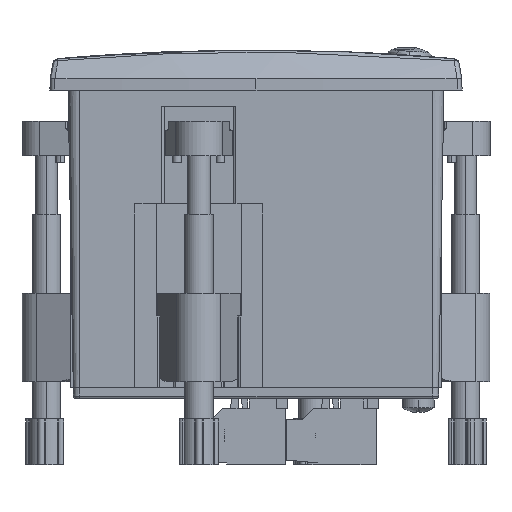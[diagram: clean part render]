
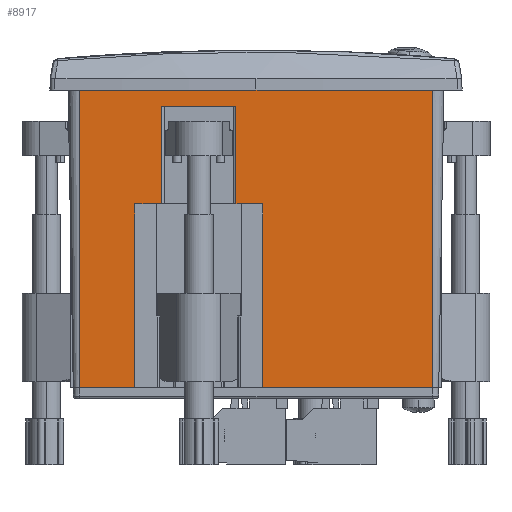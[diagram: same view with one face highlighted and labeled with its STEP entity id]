
A CAD part, left-side view. The second image highlights one B-rep face of the part: STEP entity #8917.
In plain terms, the highlighted planar face has unit normal (-1, 0, -0.018).
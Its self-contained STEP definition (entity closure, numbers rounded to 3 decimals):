
#2183 = DIRECTION ( 'NONE',  ( 0.017, 0., -1. ) ) ;
#2779 = VERTEX_POINT ( 'NONE', #33742 ) ;
#3119 = EDGE_CURVE ( 'NONE', #7847, #53150, #21857, .T. ) ;
#3890 = EDGE_CURVE ( 'NONE', #56179, #20033, #51132, .T. ) ;
#4158 = ORIENTED_EDGE ( 'NONE', *, *, #12183, .T. ) ;
#4218 = ORIENTED_EDGE ( 'NONE', *, *, #3890, .T. ) ;
#5060 = ORIENTED_EDGE ( 'NONE', *, *, #54609, .F. ) ;
#5543 = EDGE_CURVE ( 'NONE', #45986, #25909, #11629, .T. ) ;
#6535 = CARTESIAN_POINT ( 'NONE',  ( -66.967, -28.35, -52. ) ) ;
#6983 = VECTOR ( 'NONE', #46010, 1000. ) ;
#7322 = LINE ( 'NONE', #9114, #29315 ) ;
#7540 = ORIENTED_EDGE ( 'NONE', *, *, #24735, .F. ) ;
#7847 = VERTEX_POINT ( 'NONE', #19442 ) ;
#8024 = CARTESIAN_POINT ( 'NONE',  ( -67.527, 17.4, -19.918 ) ) ;
#8917 = ADVANCED_FACE ( 'NONE', ( #28220 ), #26701, .T. ) ;
#9114 = CARTESIAN_POINT ( 'NONE',  ( -67.527, 2.6, -19.918 ) ) ;
#10149 = VECTOR ( 'NONE', #27508, 1000. ) ;
#11028 = LINE ( 'NONE', #21813, #34351 ) ;
#11120 = VERTEX_POINT ( 'NONE', #8024 ) ;
#11454 = EDGE_CURVE ( 'NONE', #13895, #50381, #19722, .T. ) ;
#11629 = LINE ( 'NONE', #19841, #33583 ) ;
#12183 = EDGE_CURVE ( 'NONE', #53150, #11120, #14726, .T. ) ;
#12752 = DIRECTION ( 'NONE',  ( 0., 1., 0. ) ) ;
#12918 = CARTESIAN_POINT ( 'NONE',  ( -67.875, 30.85, 0. ) ) ;
#13490 = ORIENTED_EDGE ( 'NONE', *, *, #11454, .T. ) ;
#13895 = VERTEX_POINT ( 'NONE', #33640 ) ;
#14186 = CARTESIAN_POINT ( 'NONE',  ( -67.823, 16.5, -2.955 ) ) ;
#14208 = CARTESIAN_POINT ( 'NONE',  ( -67.875, 21.2, 0. ) ) ;
#14726 = LINE ( 'NONE', #29554, #25059 ) ;
#18034 = DIRECTION ( 'NONE',  ( -1., 0., -0.017 ) ) ;
#18242 = EDGE_LOOP ( 'NONE', ( #26906, #49413, #24231, #50462, #40141, #5060, #24714, #13490, #7540, #40757, #20012, #4158, #36787, #4218 ) ) ;
#19008 = CARTESIAN_POINT ( 'NONE',  ( -67.875, 30.85, 0. ) ) ;
#19442 = CARTESIAN_POINT ( 'NONE',  ( -66.967, 21.2, -52. ) ) ;
#19446 = VERTEX_POINT ( 'NONE', #27753 ) ;
#19722 = LINE ( 'NONE', #19008, #40271 ) ;
#19724 = DIRECTION ( 'NONE',  ( -0.017, 0., 1. ) ) ;
#19841 = CARTESIAN_POINT ( 'NONE',  ( -67.527, 30.85, -19.918 ) ) ;
#19943 = EDGE_CURVE ( 'NONE', #54756, #2779, #21723, .T. ) ;
#20012 = ORIENTED_EDGE ( 'NONE', *, *, #3119, .T. ) ;
#20033 = VERTEX_POINT ( 'NONE', #14186 ) ;
#20715 = EDGE_CURVE ( 'NONE', #56179, #11120, #35864, .T. ) ;
#21422 = CARTESIAN_POINT ( 'NONE',  ( -66.967, -1.2, -52. ) ) ;
#21723 = LINE ( 'NONE', #21887, #31985 ) ;
#21810 = LINE ( 'NONE', #54635, #43712 ) ;
#21813 = CARTESIAN_POINT ( 'NONE',  ( -67.823, 16., -2.955 ) ) ;
#21857 = LINE ( 'NONE', #14208, #10149 ) ;
#21887 = CARTESIAN_POINT ( 'NONE',  ( -67.28, 3.5, -34.076 ) ) ;
#22302 = EDGE_CURVE ( 'NONE', #25909, #40248, #21810, .T. ) ;
#22962 = EDGE_CURVE ( 'NONE', #45986, #54756, #7322, .T. ) ;
#23647 = CARTESIAN_POINT ( 'NONE',  ( -67.527, 21.2, -19.918 ) ) ;
#24231 = ORIENTED_EDGE ( 'NONE', *, *, #22962, .F. ) ;
#24256 = DIRECTION ( 'NONE',  ( 0., -1., 0. ) ) ;
#24262 = VECTOR ( 'NONE', #37498, 1000. ) ;
#24714 = ORIENTED_EDGE ( 'NONE', *, *, #37880, .T. ) ;
#24735 = EDGE_CURVE ( 'NONE', #33262, #50381, #56430, .T. ) ;
#24893 = CARTESIAN_POINT ( 'NONE',  ( -67.875, 30.85, 0. ) ) ;
#25059 = VECTOR ( 'NONE', #55733, 1000. ) ;
#25909 = VERTEX_POINT ( 'NONE', #29591 ) ;
#26335 = DIRECTION ( 'NONE',  ( -0.017, 0., 1. ) ) ;
#26346 = DIRECTION ( 'NONE',  ( 0., 1., 0. ) ) ;
#26701 = PLANE ( 'NONE',  #51745 ) ;
#26906 = ORIENTED_EDGE ( 'NONE', *, *, #44480, .F. ) ;
#27508 = DIRECTION ( 'NONE',  ( -0.017, 0., 1. ) ) ;
#27753 = CARTESIAN_POINT ( 'NONE',  ( -66.967, -30.85, -52. ) ) ;
#28220 = FACE_OUTER_BOUND ( 'NONE', #18242, .T. ) ;
#29125 = LINE ( 'NONE', #34470, #35224 ) ;
#29315 = VECTOR ( 'NONE', #35204, 1000. ) ;
#29554 = CARTESIAN_POINT ( 'NONE',  ( -67.527, 30.85, -19.918 ) ) ;
#29591 = CARTESIAN_POINT ( 'NONE',  ( -67.527, -1.2, -19.918 ) ) ;
#31985 = VECTOR ( 'NONE', #26335, 1000. ) ;
#33058 = CARTESIAN_POINT ( 'NONE',  ( -67.527, 2.6, -19.918 ) ) ;
#33112 = VECTOR ( 'NONE', #55474, 1000. ) ;
#33262 = VERTEX_POINT ( 'NONE', #44302 ) ;
#33583 = VECTOR ( 'NONE', #24256, 1000. ) ;
#33640 = CARTESIAN_POINT ( 'NONE',  ( -67.875, -30.85, 0. ) ) ;
#33742 = CARTESIAN_POINT ( 'NONE',  ( -67.823, 3.5, -2.955 ) ) ;
#34351 = VECTOR ( 'NONE', #12752, 1000. ) ;
#34470 = CARTESIAN_POINT ( 'NONE',  ( -67.875, -30.85, 0. ) ) ;
#35204 = DIRECTION ( 'NONE',  ( 0., 1., 0. ) ) ;
#35224 = VECTOR ( 'NONE', #38715, 1000. ) ;
#35864 = LINE ( 'NONE', #33058, #24262 ) ;
#36771 = DIRECTION ( 'NONE',  ( 0., 1., 0. ) ) ;
#36787 = ORIENTED_EDGE ( 'NONE', *, *, #20715, .F. ) ;
#37498 = DIRECTION ( 'NONE',  ( 0., 1., 0. ) ) ;
#37880 = EDGE_CURVE ( 'NONE', #19446, #13895, #29125, .T. ) ;
#38222 = CARTESIAN_POINT ( 'NONE',  ( -67.527, 16.5, -19.918 ) ) ;
#38715 = DIRECTION ( 'NONE',  ( -0.017, 0., 1. ) ) ;
#39005 = LINE ( 'NONE', #52539, #49288 ) ;
#40141 = ORIENTED_EDGE ( 'NONE', *, *, #22302, .T. ) ;
#40248 = VERTEX_POINT ( 'NONE', #21422 ) ;
#40271 = VECTOR ( 'NONE', #36771, 1000. ) ;
#40757 = ORIENTED_EDGE ( 'NONE', *, *, #47756, .F. ) ;
#41535 = CARTESIAN_POINT ( 'NONE',  ( -67.28, 16.5, -34.076 ) ) ;
#41972 = LINE ( 'NONE', #6535, #6983 ) ;
#42495 = CARTESIAN_POINT ( 'NONE',  ( -67.527, 2.6, -19.918 ) ) ;
#43712 = VECTOR ( 'NONE', #2183, 1000. ) ;
#44255 = CARTESIAN_POINT ( 'NONE',  ( -67.875, 30.85, 0. ) ) ;
#44302 = CARTESIAN_POINT ( 'NONE',  ( -66.967, 30.85, -52. ) ) ;
#44480 = EDGE_CURVE ( 'NONE', #2779, #20033, #11028, .T. ) ;
#45986 = VERTEX_POINT ( 'NONE', #42495 ) ;
#46010 = DIRECTION ( 'NONE',  ( 0., 1., 0. ) ) ;
#47756 = EDGE_CURVE ( 'NONE', #7847, #33262, #39005, .T. ) ;
#48645 = DIRECTION ( 'NONE',  ( -0.017, 0., 1. ) ) ;
#49288 = VECTOR ( 'NONE', #26346, 1000. ) ;
#49413 = ORIENTED_EDGE ( 'NONE', *, *, #19943, .F. ) ;
#50381 = VERTEX_POINT ( 'NONE', #12918 ) ;
#50462 = ORIENTED_EDGE ( 'NONE', *, *, #5543, .T. ) ;
#51132 = LINE ( 'NONE', #41535, #52514 ) ;
#51143 = CARTESIAN_POINT ( 'NONE',  ( -67.527, 3.5, -19.918 ) ) ;
#51745 = AXIS2_PLACEMENT_3D ( 'NONE', #44255, #18034, #48645 ) ;
#52514 = VECTOR ( 'NONE', #19724, 1000. ) ;
#52539 = CARTESIAN_POINT ( 'NONE',  ( -66.967, -28.35, -52. ) ) ;
#53150 = VERTEX_POINT ( 'NONE', #23647 ) ;
#54609 = EDGE_CURVE ( 'NONE', #19446, #40248, #41972, .T. ) ;
#54635 = CARTESIAN_POINT ( 'NONE',  ( -67.875, -1.2, 0. ) ) ;
#54756 = VERTEX_POINT ( 'NONE', #51143 ) ;
#55474 = DIRECTION ( 'NONE',  ( -0.017, 0., 1. ) ) ;
#55733 = DIRECTION ( 'NONE',  ( 0., -1., 0. ) ) ;
#56179 = VERTEX_POINT ( 'NONE', #38222 ) ;
#56430 = LINE ( 'NONE', #24893, #33112 ) ;
